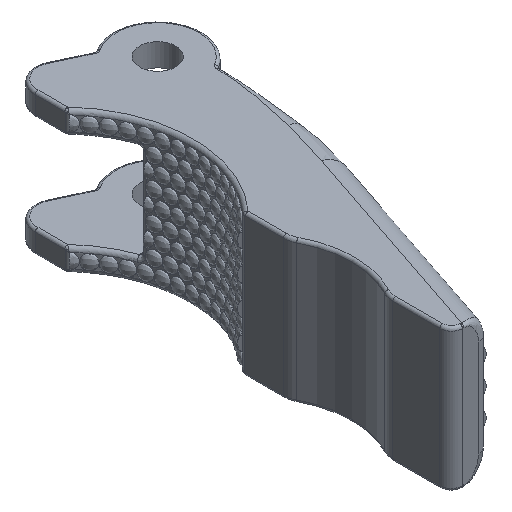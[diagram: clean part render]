
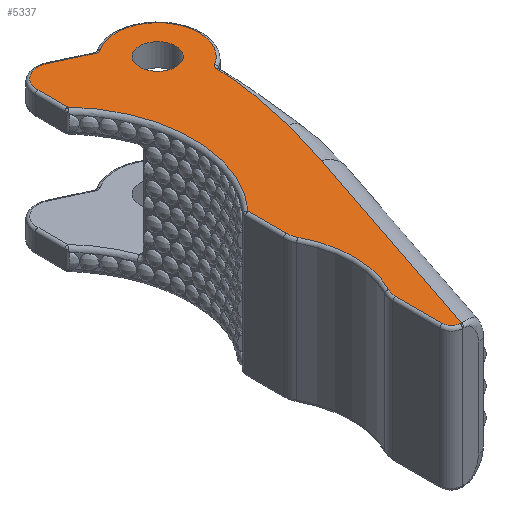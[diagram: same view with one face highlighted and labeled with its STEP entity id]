
A CAD part, isometric view. The second image highlights one B-rep face of the part: STEP entity #5337.
In plain terms, the highlighted planar face has unit normal (0, 0, 1).
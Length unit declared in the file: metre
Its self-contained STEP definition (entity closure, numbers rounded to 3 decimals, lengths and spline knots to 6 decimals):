
#293=CIRCLE('',#5865,0.0016);
#295=CIRCLE('',#5868,0.00175);
#296=CIRCLE('',#5869,0.008586);
#297=CIRCLE('',#5870,0.00175);
#298=CIRCLE('',#5871,0.00075);
#299=CIRCLE('',#5872,0.0005);
#300=CIRCLE('',#5873,0.00365);
#301=CIRCLE('',#5874,0.0005);
#302=CIRCLE('',#5875,0.00175);
#303=CIRCLE('',#5876,0.011723);
#688=LINE('',#9683,#861);
#734=LINE('',#10109,#907);
#735=LINE('',#10113,#908);
#736=LINE('',#10115,#909);
#737=LINE('',#10157,#910);
#738=LINE('',#10161,#911);
#861=VECTOR('',#6541,1.);
#907=VECTOR('',#6675,1.);
#908=VECTOR('',#6678,1.);
#909=VECTOR('',#6679,1.);
#910=VECTOR('',#6686,1.);
#911=VECTOR('',#6689,1.);
#1559=ORIENTED_EDGE('',*,*,#3150,.F.);
#1560=ORIENTED_EDGE('',*,*,#3232,.F.);
#1561=ORIENTED_EDGE('',*,*,#3233,.F.);
#1562=ORIENTED_EDGE('',*,*,#3234,.F.);
#1563=ORIENTED_EDGE('',*,*,#3235,.F.);
#1564=ORIENTED_EDGE('',*,*,#3236,.F.);
#1565=ORIENTED_EDGE('',*,*,#3237,.F.);
#1566=ORIENTED_EDGE('',*,*,#3238,.F.);
#1567=ORIENTED_EDGE('',*,*,#3239,.F.);
#1568=ORIENTED_EDGE('',*,*,#3240,.F.);
#1569=ORIENTED_EDGE('',*,*,#3241,.F.);
#1570=ORIENTED_EDGE('',*,*,#3242,.F.);
#1571=ORIENTED_EDGE('',*,*,#3243,.F.);
#1572=ORIENTED_EDGE('',*,*,#3244,.F.);
#1573=ORIENTED_EDGE('',*,*,#3245,.F.);
#1574=ORIENTED_EDGE('',*,*,#3246,.F.);
#1575=ORIENTED_EDGE('',*,*,#3247,.F.);
#1576=ORIENTED_EDGE('',*,*,#3230,.F.);
#3150=EDGE_CURVE('',#3804,#3805,#688,.T.);
#3230=EDGE_CURVE('',#3869,#3869,#293,.F.);
#3232=EDGE_CURVE('',#3871,#3804,#295,.T.);
#3233=EDGE_CURVE('',#3872,#3871,#296,.F.);
#3234=EDGE_CURVE('',#3873,#3872,#297,.T.);
#3235=EDGE_CURVE('',#3874,#3873,#734,.T.);
#3236=EDGE_CURVE('',#3875,#3874,#298,.T.);
#3237=EDGE_CURVE('',#3876,#3875,#735,.F.);
#3238=EDGE_CURVE('',#3877,#3876,#736,.F.);
#3239=EDGE_CURVE('',#3878,#3877,#4282,.T.);
#3240=EDGE_CURVE('',#3879,#3878,#4283,.T.);
#3241=EDGE_CURVE('',#3880,#3879,#299,.F.);
#3242=EDGE_CURVE('',#3881,#3880,#300,.T.);
#3243=EDGE_CURVE('',#3882,#3881,#301,.F.);
#3244=EDGE_CURVE('',#3883,#3882,#737,.T.);
#3245=EDGE_CURVE('',#3884,#3883,#302,.T.);
#3246=EDGE_CURVE('',#3885,#3884,#738,.T.);
#3247=EDGE_CURVE('',#3805,#3885,#303,.F.);
#3804=VERTEX_POINT('',#9682);
#3805=VERTEX_POINT('',#9684);
#3869=VERTEX_POINT('',#10099);
#3871=VERTEX_POINT('',#10104);
#3872=VERTEX_POINT('',#10106);
#3873=VERTEX_POINT('',#10108);
#3874=VERTEX_POINT('',#10110);
#3875=VERTEX_POINT('',#10112);
#3876=VERTEX_POINT('',#10114);
#3877=VERTEX_POINT('',#10116);
#3878=VERTEX_POINT('',#10130);
#3879=VERTEX_POINT('',#10150);
#3880=VERTEX_POINT('',#10152);
#3881=VERTEX_POINT('',#10154);
#3882=VERTEX_POINT('',#10156);
#3883=VERTEX_POINT('',#10158);
#3884=VERTEX_POINT('',#10160);
#3885=VERTEX_POINT('',#10162);
#4282=B_SPLINE_CURVE_WITH_KNOTS('',3,(#10117,#10118,#10119,#10120,#10121,
#10122,#10123,#10124,#10125,#10126,#10127,#10128,#10129),.UNSPECIFIED.,
 .F.,.F.,(4,1,1,1,1,1,1,1,1,1,4),(0.,0.25,0.375,0.4375,0.5,0.5625,0.625,
0.75,0.8125,0.875,1.),.UNSPECIFIED.);
#4283=B_SPLINE_CURVE_WITH_KNOTS('',3,(#10131,#10132,#10133,#10134,#10135,
#10136,#10137,#10138,#10139,#10140,#10141,#10142,#10143,#10144,#10145,#10146,
#10147,#10148,#10149),.UNSPECIFIED.,.F.,.F.,(4,1,1,1,1,1,1,1,1,1,1,1,1,
1,1,1,4),(0.,0.125,0.25,0.3125,0.375,0.4375,0.46875,0.484375,0.5,0.515625,
0.53125,0.5625,0.625,0.6875,0.75,0.875,1.),.UNSPECIFIED.);
#4451=EDGE_LOOP('',(#1559,#1560,#1561,#1562,#1563,#1564,#1565,#1566,#1567,
#1568,#1569,#1570,#1571,#1572,#1573,#1574,#1575));
#4452=EDGE_LOOP('',(#1576));
#4859=FACE_BOUND('',#4451,.T.);
#4860=FACE_BOUND('',#4452,.T.);
#5208=PLANE('',#5867);
#5337=ADVANCED_FACE('',(#4859,#4860),#5208,.T.);
#5865=AXIS2_PLACEMENT_3D('',#10098,#6663,#6664);
#5867=AXIS2_PLACEMENT_3D('',#10102,#6667,#6668);
#5868=AXIS2_PLACEMENT_3D('',#10103,#6669,#6670);
#5869=AXIS2_PLACEMENT_3D('',#10105,#6671,#6672);
#5870=AXIS2_PLACEMENT_3D('',#10107,#6673,#6674);
#5871=AXIS2_PLACEMENT_3D('',#10111,#6676,#6677);
#5872=AXIS2_PLACEMENT_3D('',#10151,#6680,#6681);
#5873=AXIS2_PLACEMENT_3D('',#10153,#6682,#6683);
#5874=AXIS2_PLACEMENT_3D('',#10155,#6684,#6685);
#5875=AXIS2_PLACEMENT_3D('',#10159,#6687,#6688);
#5876=AXIS2_PLACEMENT_3D('',#10163,#6690,#6691);
#6541=DIRECTION('',(0.,1.,0.));
#6663=DIRECTION('',(0.,0.,-1.));
#6664=DIRECTION('',(-1.,0.,0.));
#6667=DIRECTION('',(0.,0.,1.));
#6668=DIRECTION('',(-1.,0.,0.));
#6669=DIRECTION('',(0.,0.,-1.));
#6670=DIRECTION('',(-1.,0.,0.));
#6671=DIRECTION('',(0.,0.,-1.));
#6672=DIRECTION('',(-1.,0.,0.));
#6673=DIRECTION('',(0.,0.,-1.));
#6674=DIRECTION('',(-1.,0.,0.));
#6675=DIRECTION('',(0.,1.,0.));
#6676=DIRECTION('',(0.,0.,-1.));
#6677=DIRECTION('',(-1.,0.,0.));
#6678=DIRECTION('',(1.,0.,0.));
#6679=DIRECTION('',(0.317,0.948,0.));
#6680=DIRECTION('',(0.,0.,-1.));
#6681=DIRECTION('',(-1.,0.,0.));
#6682=DIRECTION('',(0.,0.,-1.));
#6683=DIRECTION('',(-1.,0.,0.));
#6684=DIRECTION('',(0.,0.,-1.));
#6685=DIRECTION('',(-1.,0.,0.));
#6686=DIRECTION('',(0.906,-0.423,0.));
#6687=DIRECTION('',(0.,0.,-1.));
#6688=DIRECTION('',(-1.,0.,0.));
#6689=DIRECTION('',(0.,1.,0.));
#6690=DIRECTION('',(0.,0.,-1.));
#6691=DIRECTION('',(-1.,0.,0.));
#9682=CARTESIAN_POINT('',(-0.02065,0.102417,0.076655));
#9683=CARTESIAN_POINT('',(-0.02065,0.124325,0.076655));
#9684=CARTESIAN_POINT('',(-0.02065,0.105789,0.076655));
#10098=CARTESIAN_POINT('',(-0.012819,0.1216,0.076655));
#10099=CARTESIAN_POINT('',(-0.014419,0.1216,0.076655));
#10102=CARTESIAN_POINT('',(-0.01486,0.108652,0.076655));
#10103=CARTESIAN_POINT('',(-0.0189,0.102417,0.076655));
#10104=CARTESIAN_POINT('',(-0.020449,0.101603,0.076655));
#10105=CARTESIAN_POINT('',(-0.028048,0.097607,0.076655));
#10106=CARTESIAN_POINT('',(-0.020449,0.093611,0.076655));
#10107=CARTESIAN_POINT('',(-0.0189,0.092796,0.076655));
#10108=CARTESIAN_POINT('',(-0.02065,0.092796,0.076655));
#10109=CARTESIAN_POINT('',(-0.02065,0.092796,0.076655));
#10110=CARTESIAN_POINT('',(-0.02065,0.088633,0.076655));
#10111=CARTESIAN_POINT('',(-0.0199,0.088633,0.076655));
#10112=CARTESIAN_POINT('',(-0.0199,0.087883,0.076655));
#10113=CARTESIAN_POINT('',(-0.01486,0.087883,0.076655));
#10114=CARTESIAN_POINT('',(-0.019778,0.087883,0.076655));
#10115=CARTESIAN_POINT('',(-0.013031,0.10804,0.076655));
#10116=CARTESIAN_POINT('',(-0.013572,0.106422,0.076655));
#10117=CARTESIAN_POINT('',(-0.012309,0.110549,0.076655));
#10118=CARTESIAN_POINT('',(-0.012377,0.110227,0.076655));
#10119=CARTESIAN_POINT('',(-0.012501,0.109722,0.076655));
#10120=CARTESIAN_POINT('',(-0.012688,0.109077,0.076655));
#10121=CARTESIAN_POINT('',(-0.0128,0.108711,0.076655));
#10122=CARTESIAN_POINT('',(-0.012904,0.108386,0.076655));
#10123=CARTESIAN_POINT('',(-0.012958,0.108222,0.076655));
#10124=CARTESIAN_POINT('',(-0.013069,0.107892,0.076655));
#10125=CARTESIAN_POINT('',(-0.013187,0.107548,0.076655));
#10126=CARTESIAN_POINT('',(-0.013356,0.107058,0.076655));
#10127=CARTESIAN_POINT('',(-0.01348,0.106696,0.076655));
#10128=CARTESIAN_POINT('',(-0.013544,0.106506,0.076655));
#10129=CARTESIAN_POINT('',(-0.013572,0.106422,0.076655));
#10130=CARTESIAN_POINT('',(-0.012309,0.110549,0.076655));
#10131=CARTESIAN_POINT('',(-0.01115,0.118062,0.076655));
#10132=CARTESIAN_POINT('',(-0.01115,0.117794,0.076655));
#10133=CARTESIAN_POINT('',(-0.011166,0.117235,0.076655));
#10134=CARTESIAN_POINT('',(-0.011227,0.116479,0.076655));
#10135=CARTESIAN_POINT('',(-0.0113,0.11584,0.076655));
#10136=CARTESIAN_POINT('',(-0.011367,0.115342,0.076655));
#10137=CARTESIAN_POINT('',(-0.011432,0.114917,0.076655));
#10138=CARTESIAN_POINT('',(-0.011485,0.114604,0.076655));
#10139=CARTESIAN_POINT('',(-0.011514,0.114435,0.076655));
#10140=CARTESIAN_POINT('',(-0.011543,0.114273,0.076655));
#10141=CARTESIAN_POINT('',(-0.011549,0.114241,0.076655));
#10142=CARTESIAN_POINT('',(-0.011566,0.114147,0.076655));
#10143=CARTESIAN_POINT('',(-0.011595,0.113991,0.076655));
#10144=CARTESIAN_POINT('',(-0.011648,0.113721,0.076655));
#10145=CARTESIAN_POINT('',(-0.011723,0.113342,0.076655));
#10146=CARTESIAN_POINT('',(-0.011843,0.112757,0.076655));
#10147=CARTESIAN_POINT('',(-0.012026,0.111878,0.076655));
#10148=CARTESIAN_POINT('',(-0.012208,0.111018,0.076655));
#10149=CARTESIAN_POINT('',(-0.012309,0.110549,0.076655));
#10150=CARTESIAN_POINT('',(-0.01115,0.118062,0.076655));
#10151=CARTESIAN_POINT('',(-0.01065,0.118062,0.076655));
#10152=CARTESIAN_POINT('',(-0.010911,0.118488,0.076655));
#10153=CARTESIAN_POINT('',(-0.012819,0.1216,0.076655));
#10154=CARTESIAN_POINT('',(-0.01485,0.124633,0.076655));
#10155=CARTESIAN_POINT('',(-0.015128,0.125049,0.076655));
#10156=CARTESIAN_POINT('',(-0.015339,0.124596,0.076655));
#10157=CARTESIAN_POINT('',(-0.015339,0.124596,0.076655));
#10158=CARTESIAN_POINT('',(-0.01816,0.125911,0.076655));
#10159=CARTESIAN_POINT('',(-0.0189,0.124325,0.076655));
#10160=CARTESIAN_POINT('',(-0.02065,0.124325,0.076655));
#10161=CARTESIAN_POINT('',(-0.02065,0.124325,0.076655));
#10162=CARTESIAN_POINT('',(-0.02065,0.121723,0.076655));
#10163=CARTESIAN_POINT('',(-0.02925,0.113756,0.076655));
